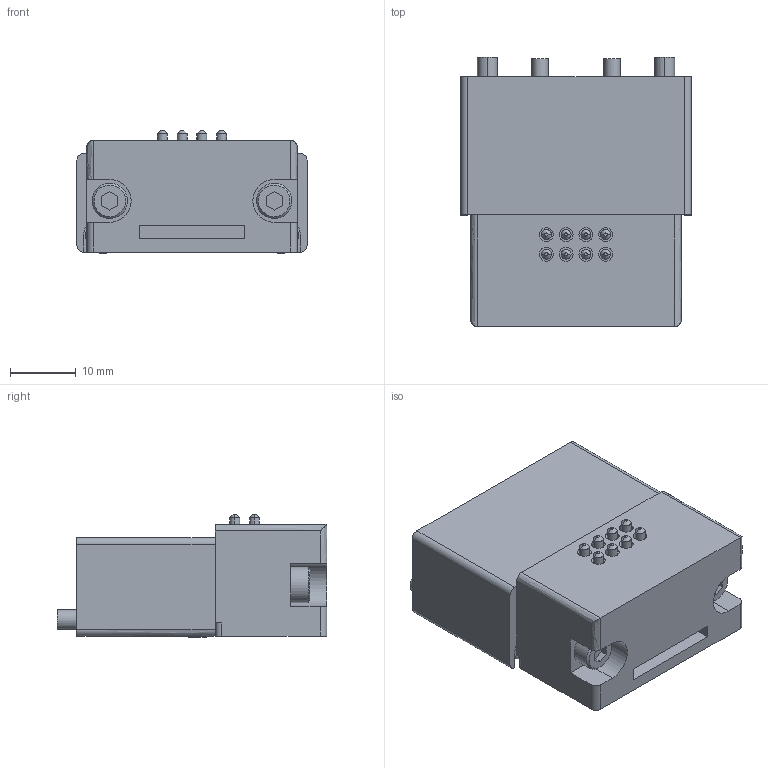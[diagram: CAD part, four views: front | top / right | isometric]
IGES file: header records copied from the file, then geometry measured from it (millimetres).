
Start section: 3D InterOp IGES (v. 2022 1.0.0), Spatial Corp. Copyright (c) 1999-2020.
Global section: file name: KHG-12HS-D38_ver1.igs; native system: Spatial Corp.; preprocessor: 3D InterOp GENERIC/IGES 3.0; author: Noname; organization: Noname; date: 20260518.093816; units: millimetre
Bounding box: 35 x 41 x 18.7 mm (x, y, z)
Surface area: 7472.3 mm2 (no closed solid volume)
Topology: 0 solids, 0 shells, 298 faces, 1382 edges, 1382 vertices
Faces by surface type: extrusion 157, revolution 141
